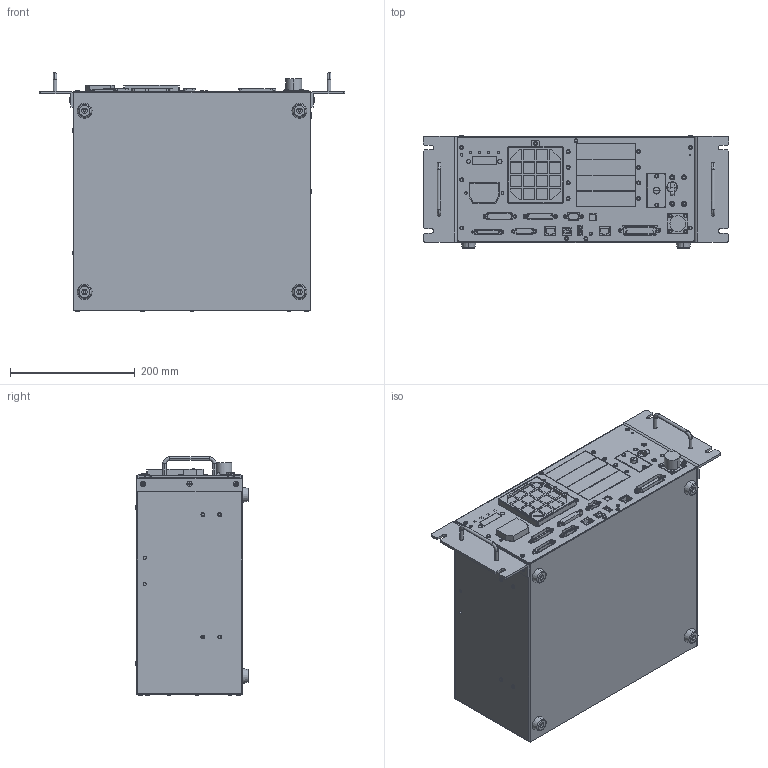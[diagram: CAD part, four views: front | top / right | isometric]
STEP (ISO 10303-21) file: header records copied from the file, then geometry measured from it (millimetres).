
FILE_DESCRIPTION( ( '' ), '1' );
FILE_NAME( '//expscmdclustefs.cadenas.external/client_exchange/iodir/jobs/output/wkb56951992_no0/STEP/RC700_2_14b.stp', '2013-04-17T12:59:04', ( '' ), ( '' ), ' ', ' ', ' ' );
FILE_SCHEMA( ( 'automotive_design' ) );
Length unit declared in the file: millimetre
Products named in the file (3): 1; 2; 3
Bounding box: 489 x 181.9 x 381.9 mm (x, y, z)
Volume: 22747288 mm3; surface area: 608932.7 mm2
Topology: 3 solids, 3 shells, 1227 faces, 3142 edges, 2097 vertices
Faces by surface type: plane 710, cylinder 257, cone 126, torus 116, sphere 18
Entity records: 73843 total; most frequent: DIRECTION 6860, CARTESIAN_POINT 6537, STYLED_ITEM 6467, PRESENTATION_STYLE_ASSIGNMENT 6467, COLOUR_RGB 6467, ORIENTED_EDGE 6280, EDGE_CURVE 3140, CURVE_STYLE 3140
